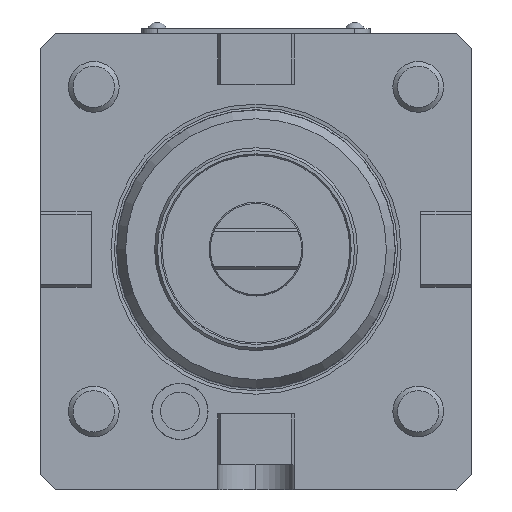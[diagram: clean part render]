
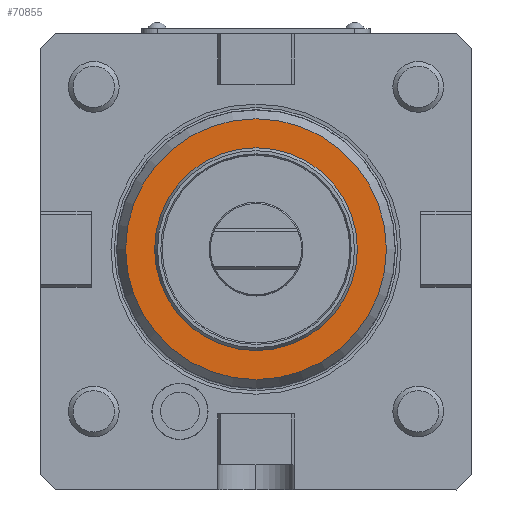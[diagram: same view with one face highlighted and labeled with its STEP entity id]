
A CAD part, left-side view. The second image highlights one B-rep face of the part: STEP entity #70855.
In plain terms, the highlighted planar face has unit normal (-1, 0, 0).
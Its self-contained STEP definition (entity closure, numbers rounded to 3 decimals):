
#36336=PLANE('',#68573);
#38245=ORIENTED_EDGE('',*,*,#46083,.T.);
#38246=ORIENTED_EDGE('',*,*,#46084,.F.);
#42721=CIRCLE('',#68572,25.718);
#42722=CIRCLE('',#68574,20.);
#43877=VERTEX_POINT('',#59184);
#43878=VERTEX_POINT('',#59187);
#46083=EDGE_CURVE('',#43877,#43877,#42721,.T.);
#46084=EDGE_CURVE('',#43878,#43878,#42722,.T.);
#48608=EDGE_LOOP('',(#38245));
#48609=EDGE_LOOP('',(#38246));
#49935=FACE_BOUND('',#48608,.T.);
#49936=FACE_BOUND('',#48609,.T.);
#52162=DIRECTION('',(-1.,0.,0.));
#52163=DIRECTION('',(0.,0.,25.718));
#52164=DIRECTION('',(-1.,0.,0.));
#52165=DIRECTION('',(0.,1.,0.));
#52166=DIRECTION('',(-1.,0.,0.));
#52167=DIRECTION('',(0.,0.,20.));
#59184=CARTESIAN_POINT('',(-107.983,-99.469,14.167));
#59185=CARTESIAN_POINT('',(-107.983,-99.469,-11.551));
#59186=CARTESIAN_POINT('',(-107.983,-99.469,14.167));
#59187=CARTESIAN_POINT('',(-107.983,-99.469,8.449));
#59188=CARTESIAN_POINT('',(-107.983,-99.469,-11.551));
#68572=AXIS2_PLACEMENT_3D('',#59185,#52162,#52163);
#68573=AXIS2_PLACEMENT_3D('',#59186,#52164,#52165);
#68574=AXIS2_PLACEMENT_3D('',#59188,#52166,#52167);
#70855=ADVANCED_FACE('',(#49935,#49936),#36336,.T.);
